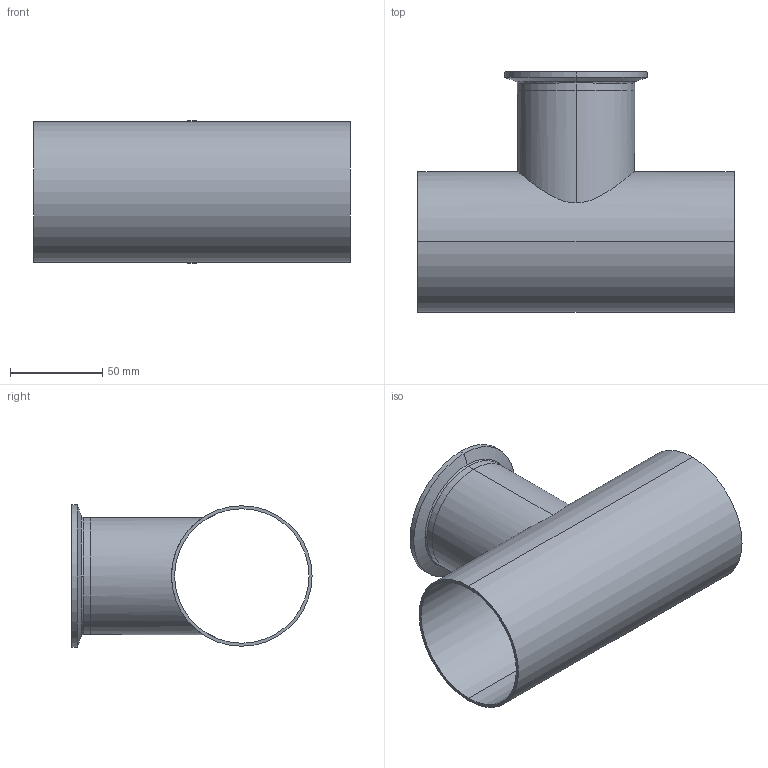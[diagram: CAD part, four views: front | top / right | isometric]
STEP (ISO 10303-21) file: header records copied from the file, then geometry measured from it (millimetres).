
FILE_DESCRIPTION (( 'STEP AP214' ), '1' );
FILE_NAME ('TE7RWWC6L3.0x2.5-...STEP', '2016-05-23T08:53:12', ( 'eran' ), ( '' ), 'SwSTEP 2.0', 'SolidWorks 2016', '' );
FILE_SCHEMA (( 'AUTOMOTIVE_DESIGN' ));
Length unit declared in the file: millimetre
Products named in the file (1): TE7RWWC6L3.0x2.5-..
Bounding box: 171.4 x 130.2 x 77.39 mm (x, y, z)
Volume: 86663.7 mm3; surface area: 102384 mm2
Topology: 2 solids, 2 shells, 36 faces, 88 edges, 58 vertices
Faces by surface type: cylinder 14, bspline 10, plane 6, cone 6
Entity records: 2074 total; most frequent: CARTESIAN_POINT 1169, DIRECTION 190, ORIENTED_EDGE 176, EDGE_CURVE 88, AXIS2_PLACEMENT_3D 85, VERTEX_POINT 58, CIRCLE 58, EDGE_LOOP 44
